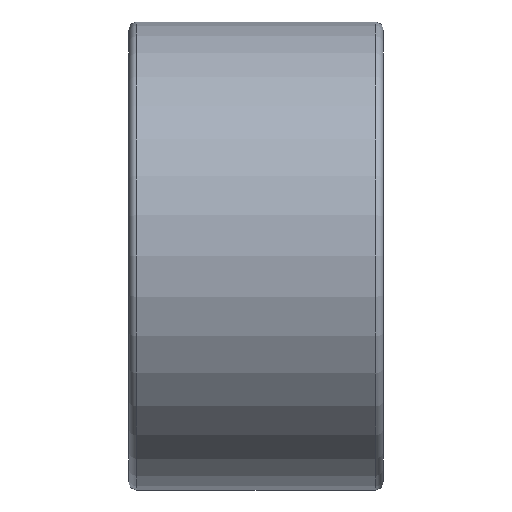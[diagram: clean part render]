
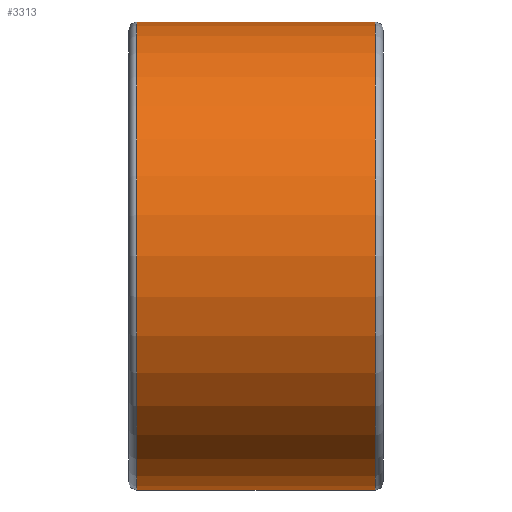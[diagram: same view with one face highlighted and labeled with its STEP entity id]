
A CAD part, front view. The second image highlights one B-rep face of the part: STEP entity #3313.
In plain terms, the highlighted cylindrical face has radius 17.5 mm (diameter 35 mm), a full revolution.
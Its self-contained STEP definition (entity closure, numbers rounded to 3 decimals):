
#638=LINE('',#9417,#774);
#774=VECTOR('',#4313,17.5);
#798=CYLINDRICAL_SURFACE('',#3645,17.5);
#973=FACE_OUTER_BOUND('',#1154,.T.);
#1154=EDGE_LOOP('',(#3091,#3092,#3093,#3094,#3095,#3096,#3097,#3098));
#1302=CIRCLE('',#3641,17.5);
#1303=CIRCLE('',#3642,17.5);
#1305=CIRCLE('',#3644,17.5);
#1306=CIRCLE('',#3646,17.5);
#1307=CIRCLE('',#3647,17.5);
#1308=CIRCLE('',#3648,17.5);
#1629=VERTEX_POINT('',#9404);
#1630=VERTEX_POINT('',#9405);
#1631=VERTEX_POINT('',#9407);
#1632=VERTEX_POINT('',#9412);
#1633=VERTEX_POINT('',#9413);
#1634=VERTEX_POINT('',#9415);
#2119=EDGE_CURVE('',#1629,#1630,#1302,.T.);
#2120=EDGE_CURVE('',#1630,#1631,#1303,.T.);
#2122=EDGE_CURVE('',#1631,#1629,#1305,.T.);
#2123=EDGE_CURVE('',#1632,#1633,#1306,.T.);
#2124=EDGE_CURVE('',#1634,#1632,#1307,.T.);
#2125=EDGE_CURVE('',#1634,#1630,#638,.T.);
#2126=EDGE_CURVE('',#1633,#1634,#1308,.T.);
#3091=ORIENTED_EDGE('',*,*,#2123,.F.);
#3092=ORIENTED_EDGE('',*,*,#2124,.F.);
#3093=ORIENTED_EDGE('',*,*,#2125,.T.);
#3094=ORIENTED_EDGE('',*,*,#2119,.F.);
#3095=ORIENTED_EDGE('',*,*,#2122,.F.);
#3096=ORIENTED_EDGE('',*,*,#2120,.F.);
#3097=ORIENTED_EDGE('',*,*,#2125,.F.);
#3098=ORIENTED_EDGE('',*,*,#2126,.F.);
#3313=ADVANCED_FACE('',(#973),#798,.T.);
#3641=AXIS2_PLACEMENT_3D('',#9406,#4299,#4300);
#3642=AXIS2_PLACEMENT_3D('',#9408,#4301,#4302);
#3644=AXIS2_PLACEMENT_3D('',#9410,#4305,#4306);
#3645=AXIS2_PLACEMENT_3D('',#9411,#4307,#4308);
#3646=AXIS2_PLACEMENT_3D('',#9414,#4309,#4310);
#3647=AXIS2_PLACEMENT_3D('',#9416,#4311,#4312);
#3648=AXIS2_PLACEMENT_3D('',#9418,#4314,#4315);
#4299=DIRECTION('center_axis',(-1.,0.,0.));
#4300=DIRECTION('ref_axis',(0.,-1.,0.));
#4301=DIRECTION('center_axis',(-1.,0.,0.));
#4302=DIRECTION('ref_axis',(0.,-1.,0.));
#4305=DIRECTION('center_axis',(-1.,0.,0.));
#4306=DIRECTION('ref_axis',(0.,-1.,0.));
#4307=DIRECTION('center_axis',(1.,0.,0.));
#4308=DIRECTION('ref_axis',(0.,1.,0.));
#4309=DIRECTION('center_axis',(1.,0.,0.));
#4310=DIRECTION('ref_axis',(0.,-1.,0.));
#4311=DIRECTION('center_axis',(1.,0.,0.));
#4312=DIRECTION('ref_axis',(0.,-1.,0.));
#4313=DIRECTION('',(-1.,0.,0.));
#4314=DIRECTION('center_axis',(1.,0.,0.));
#4315=DIRECTION('ref_axis',(0.,-1.,0.));
#9404=CARTESIAN_POINT('',(-8.9,17.5,0.));
#9405=CARTESIAN_POINT('',(-8.9,-17.5,0.));
#9406=CARTESIAN_POINT('Origin',(-8.9,0.,0.));
#9407=CARTESIAN_POINT('',(-8.9,0.,17.5));
#9408=CARTESIAN_POINT('Origin',(-8.9,0.,0.));
#9410=CARTESIAN_POINT('Origin',(-8.9,0.,0.));
#9411=CARTESIAN_POINT('Origin',(0.,0.,
0.));
#9412=CARTESIAN_POINT('',(8.9,17.5,0.));
#9413=CARTESIAN_POINT('',(8.9,0.,17.5));
#9414=CARTESIAN_POINT('Origin',(8.9,0.,0.));
#9415=CARTESIAN_POINT('',(8.9,-17.5,0.));
#9416=CARTESIAN_POINT('Origin',(8.9,0.,0.));
#9417=CARTESIAN_POINT('',(0.,-17.5,0.));
#9418=CARTESIAN_POINT('Origin',(8.9,0.,0.));
